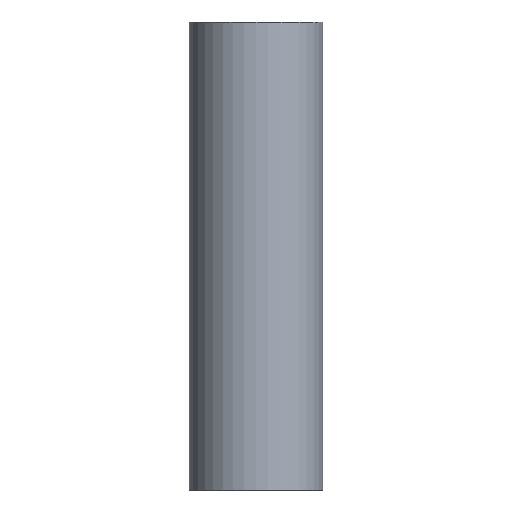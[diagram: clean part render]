
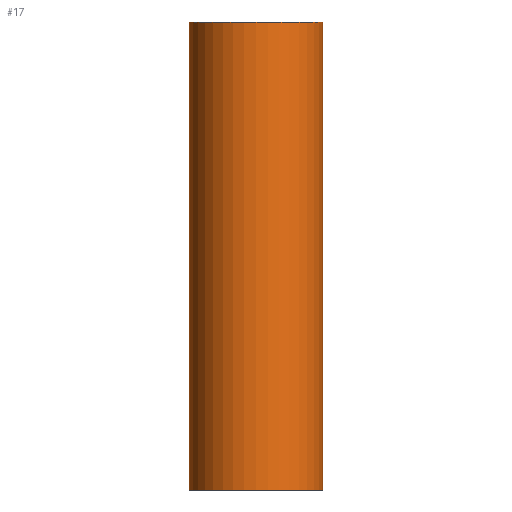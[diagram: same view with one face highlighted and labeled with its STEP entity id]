
A CAD part, front view. The second image highlights one B-rep face of the part: STEP entity #17.
In plain terms, the highlighted cylindrical face has radius 170 mm (diameter 340 mm), a full revolution.
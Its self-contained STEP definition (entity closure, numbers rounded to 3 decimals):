
#17 = ADVANCED_FACE('',(#18),#32,.T.);
#18 = FACE_BOUND('',#19,.F.);
#19 = EDGE_LOOP('',(#20,#50,#77,#78));
#20 = ORIENTED_EDGE('',*,*,#21,.T.);
#21 = EDGE_CURVE('',#22,#24,#26,.T.);
#22 = VERTEX_POINT('',#23);
#23 = CARTESIAN_POINT('',(170.,0.,5.));
#24 = VERTEX_POINT('',#25);
#25 = CARTESIAN_POINT('',(170.,0.,1195.));
#26 = SEAM_CURVE('',#27,(#31,#43),.PCURVE_S1.);
#27 = LINE('',#28,#29);
#28 = CARTESIAN_POINT('',(170.,0.,5.));
#29 = VECTOR('',#30,1.);
#30 = DIRECTION('',(0.,0.,1.));
#31 = PCURVE('',#32,#37);
#32 = CYLINDRICAL_SURFACE('',#33,170.);
#33 = AXIS2_PLACEMENT_3D('',#34,#35,#36);
#34 = CARTESIAN_POINT('',(0.,0.,5.));
#35 = DIRECTION('',(-0.,-0.,-1.));
#36 = DIRECTION('',(1.,0.,0.));
#37 = DEFINITIONAL_REPRESENTATION('',(#38),#42);
#38 = LINE('',#39,#40);
#39 = CARTESIAN_POINT('',(-0.,0.));
#40 = VECTOR('',#41,1.);
#41 = DIRECTION('',(-0.,-1.));
#42 = ( GEOMETRIC_REPRESENTATION_CONTEXT(2) 
PARAMETRIC_REPRESENTATION_CONTEXT() REPRESENTATION_CONTEXT('2D SPACE',''
  ) );
#43 = PCURVE('',#32,#44);
#44 = DEFINITIONAL_REPRESENTATION('',(#45),#49);
#45 = LINE('',#46,#47);
#46 = CARTESIAN_POINT('',(-6.283,0.));
#47 = VECTOR('',#48,1.);
#48 = DIRECTION('',(-0.,-1.));
#49 = ( GEOMETRIC_REPRESENTATION_CONTEXT(2) 
PARAMETRIC_REPRESENTATION_CONTEXT() REPRESENTATION_CONTEXT('2D SPACE',''
  ) );
#50 = ORIENTED_EDGE('',*,*,#51,.T.);
#51 = EDGE_CURVE('',#24,#24,#52,.T.);
#52 = SURFACE_CURVE('',#53,(#58,#65),.PCURVE_S1.);
#53 = CIRCLE('',#54,170.);
#54 = AXIS2_PLACEMENT_3D('',#55,#56,#57);
#55 = CARTESIAN_POINT('',(0.,0.,1195.));
#56 = DIRECTION('',(0.,0.,1.));
#57 = DIRECTION('',(1.,0.,0.));
#58 = PCURVE('',#32,#59);
#59 = DEFINITIONAL_REPRESENTATION('',(#60),#64);
#60 = LINE('',#61,#62);
#61 = CARTESIAN_POINT('',(-0.,-1190.));
#62 = VECTOR('',#63,1.);
#63 = DIRECTION('',(-1.,0.));
#64 = ( GEOMETRIC_REPRESENTATION_CONTEXT(2) 
PARAMETRIC_REPRESENTATION_CONTEXT() REPRESENTATION_CONTEXT('2D SPACE',''
  ) );
#65 = PCURVE('',#66,#71);
#66 = PLANE('',#67);
#67 = AXIS2_PLACEMENT_3D('',#68,#69,#70);
#68 = CARTESIAN_POINT('',(0.,0.,
    1195.));
#69 = DIRECTION('',(0.,0.,1.));
#70 = DIRECTION('',(1.,0.,-0.));
#71 = DEFINITIONAL_REPRESENTATION('',(#72),#76);
#72 = CIRCLE('',#73,170.);
#73 = AXIS2_PLACEMENT_2D('',#74,#75);
#74 = CARTESIAN_POINT('',(0.,0.));
#75 = DIRECTION('',(1.,0.));
#76 = ( GEOMETRIC_REPRESENTATION_CONTEXT(2) 
PARAMETRIC_REPRESENTATION_CONTEXT() REPRESENTATION_CONTEXT('2D SPACE',''
  ) );
#77 = ORIENTED_EDGE('',*,*,#21,.F.);
#78 = ORIENTED_EDGE('',*,*,#79,.F.);
#79 = EDGE_CURVE('',#22,#22,#80,.T.);
#80 = SURFACE_CURVE('',#81,(#86,#93),.PCURVE_S1.);
#81 = CIRCLE('',#82,170.);
#82 = AXIS2_PLACEMENT_3D('',#83,#84,#85);
#83 = CARTESIAN_POINT('',(0.,0.,5.));
#84 = DIRECTION('',(0.,0.,1.));
#85 = DIRECTION('',(1.,0.,0.));
#86 = PCURVE('',#32,#87);
#87 = DEFINITIONAL_REPRESENTATION('',(#88),#92);
#88 = LINE('',#89,#90);
#89 = CARTESIAN_POINT('',(-0.,0.));
#90 = VECTOR('',#91,1.);
#91 = DIRECTION('',(-1.,0.));
#92 = ( GEOMETRIC_REPRESENTATION_CONTEXT(2) 
PARAMETRIC_REPRESENTATION_CONTEXT() REPRESENTATION_CONTEXT('2D SPACE',''
  ) );
#93 = PCURVE('',#94,#99);
#94 = PLANE('',#95);
#95 = AXIS2_PLACEMENT_3D('',#96,#97,#98);
#96 = CARTESIAN_POINT('',(0.,0.,5.));
#97 = DIRECTION('',(0.,0.,1.));
#98 = DIRECTION('',(1.,0.,-0.));
#99 = DEFINITIONAL_REPRESENTATION('',(#100),#104);
#100 = CIRCLE('',#101,170.);
#101 = AXIS2_PLACEMENT_2D('',#102,#103);
#102 = CARTESIAN_POINT('',(0.,0.));
#103 = DIRECTION('',(1.,0.));
#104 = ( GEOMETRIC_REPRESENTATION_CONTEXT(2) 
PARAMETRIC_REPRESENTATION_CONTEXT() REPRESENTATION_CONTEXT('2D SPACE',''
  ) );
